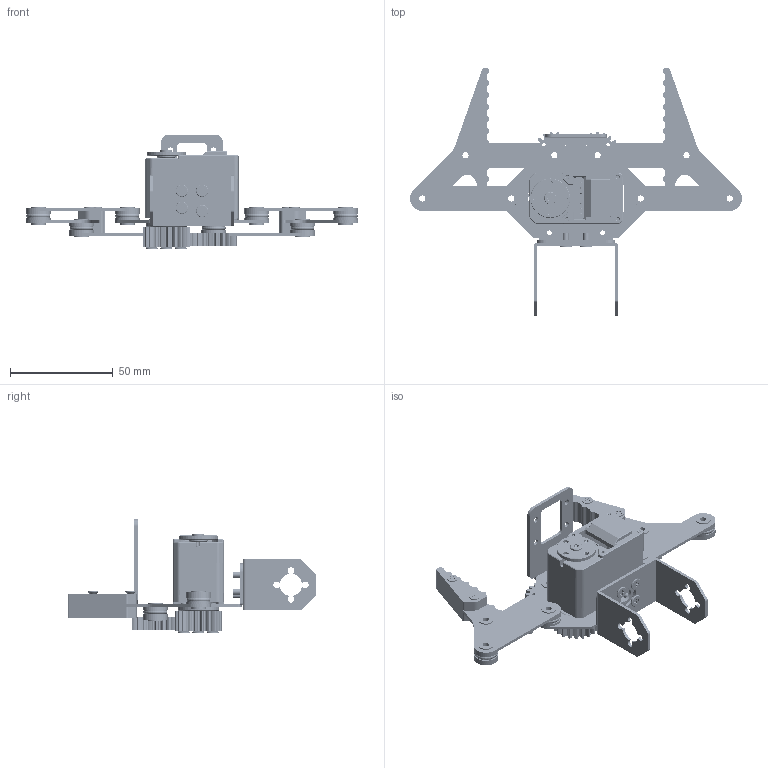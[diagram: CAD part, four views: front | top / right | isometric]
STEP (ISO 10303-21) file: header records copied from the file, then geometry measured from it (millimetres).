
FILE_DESCRIPTION(/* description */ ('','CAx-IF Rec.Pracs.---Representation and Presentation of Product Manufacturing Information (PMI)---4.0---2014-10-13'),/* implementation_level */ '2;1');
FILE_NAME(/* name */ '',/* time_stamp */ '2025-02-10T14:26:02+08:00',/* author */ (''),/* organization */ (''),/* preprocessor_version */ 'ST-DEVELOPER v20',/* originating_system */ 'Autodesk Translation Framework v13.20.0.188',/* authorisation */ '');
FILE_SCHEMA (('AP242_MANAGED_MODEL_BASED_3D_ENGINEERING_MIM_LF { 1 0 10303 442 1 1 4 }'));
Products named in the file (28): 铝合金夹头; 夹头底座; 齿轮臂; 夹头从动臂; 夹头末端; 从动加强齿; 舵机驱动加强齿; MF63ZZ; 平面轴承 F6-12; ST-3235M-20211119-A_ASM; ST-3235M-20211119_ASM_ASM; SCS215_ASM_71_ASM_ASM; ASM-_____ASM_5_ASM_7_ASM_ASM; PRT0001; PRT0002; PRT0003; PRT0004; PRT0005; PRT0006; OUTGEAR_ASM_2_ASM_ASM; PRT0007; FK-AP-019-20210309; WJ-DP00-0002-FK-AP-020_1; 夹头末端加强; Theta舵机支架; 黑色金属扁平头螺丝 CM3*6*6; 黑色金属扁平头螺丝 CM3*14*6; 黑色金属沉头螺丝 KM3*16
Assembly tree (70 placements, depth 6):
  铝合金夹头
    夹头底座
    齿轮臂  x2
    夹头从动臂  x2
    夹头末端  x2
    舵机驱动加强齿  x2
    从动加强齿  x2
    MF63ZZ  x16
    平面轴承 F6-12  x8
    夹头末端加强  x4
    ST-3235M-20211119-A_ASM
      ST-3235M-20211119_ASM_ASM
        SCS215_ASM_71_ASM_ASM
          ASM-_____ASM_5_ASM_7_ASM_ASM
            PRT0001
          PRT0002
          PRT0003
          PRT0004  x4
          PRT0005  x2
          PRT0006
          OUTGEAR_ASM_2_ASM_ASM
            PRT0007
      FK-AP-019-20210309
      WJ-DP00-0002-FK-AP-020_1
    Theta舵机支架
    黑色金属扁平头螺丝 CM3*6*6  x4
    黑色金属扁平头螺丝 CM3*14*6  x4
    黑色金属沉头螺丝 KM3*16  x4
Bounding box: 161.4 x 120.87 x 55.56 mm (x, y, z)
Volume: 42278 mm3; surface area: 62122.2 mm2
Topology: 65 solids, 65 shells, 5288 faces, 14916 edges, 9869 vertices
Faces by surface type: cylinder 3398, plane 1342, bspline 378, cone 142, torus 28
Full cylindrical faces by diameter (mm): 0.7 x12, 1.6 x124, 2 x8, 2.2 x12, 2.4 x12, 2.5 x116, 2.6 x10, 3 x30, 3.2 x15, 3.5 x1, 4 x6, 5 x1, 5.2 x4, 6 x37, 6.05 x1, 6.1 x1, 6.12 x16, 6.2 x1, 6.5 x2, 7.2 x19, 7.5 x2, 8 x1, 8.64 x2, 9 x2, 10 x2, 10.5 x1, 11 x16, 11.5 x1, 12 x16, 13.8 x2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
Entity records: 184971 total; most frequent: CARTESIAN_POINT 94020, ORIENTED_EDGE 19608, DIRECTION 18696, EDGE_CURVE 9804, AXIS2_PLACEMENT_3D 7151, VERTEX_POINT 6469, LINE 4394, VECTOR 4394
